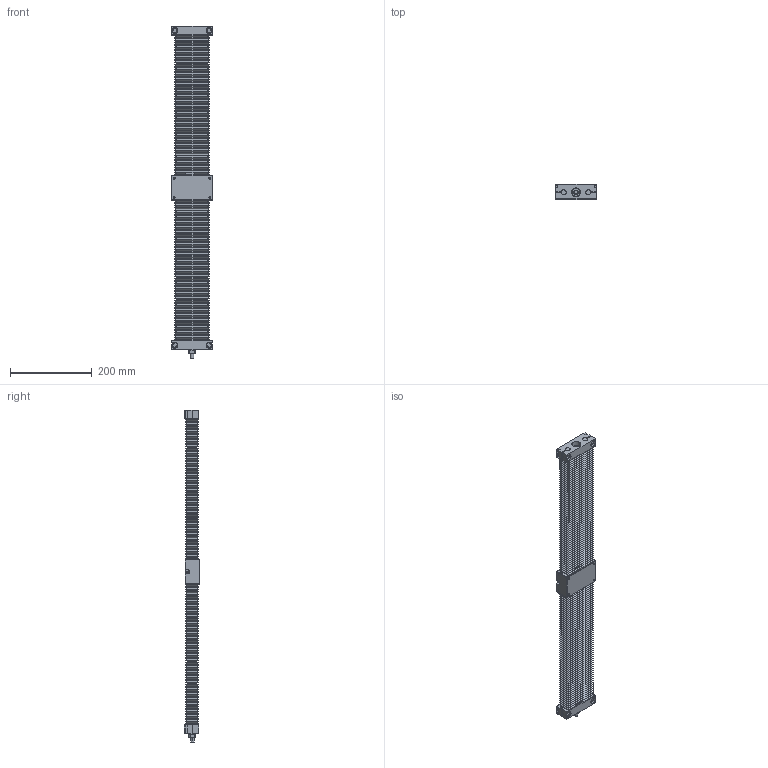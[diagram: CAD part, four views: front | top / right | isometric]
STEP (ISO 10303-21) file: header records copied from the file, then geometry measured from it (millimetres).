
FILE_DESCRIPTION (( 'STEP AP214' ), '1' );
FILE_NAME ('TKC1204B-450H0C-Ä£×é.step', '2025-10-10T09:44:44', ( '' ), ( '' ), 'SwSTEP 2.0', 'SolidWorks 2024', '' );
FILE_SCHEMA (( 'AUTOMOTIVE_DESIGN' ));
Length unit declared in the file: millimetre
Products named in the file (4): TKC12-450-03; TKC1204B-450H0C-模组; TKC12-450-01; TKC12-02
Assembly tree (4 placements, depth 2):
  TKC1204B-450H0C-模组
    TKC12-02
    TKC12-450-01
    TKC12-450-03  x2
Bounding box: 100 x 38 x 814.5 mm (x, y, z)
Volume: 1360095.3 mm3; surface area: 616175.3 mm2
Topology: 14 solids, 14 shells, 2194 faces, 4841 edges, 2723 vertices
Faces by surface type: plane 1669, cylinder 440, cone 46, torus 28, bspline 11
Entity records: 51580 total; most frequent: CARTESIAN_POINT 18868, ORIENTED_EDGE 6746, DIRECTION 6381, EDGE_CURVE 3373, VECTOR 2371, LINE 2371, AXIS2_PLACEMENT_3D 2005, VERTEX_POINT 1991
